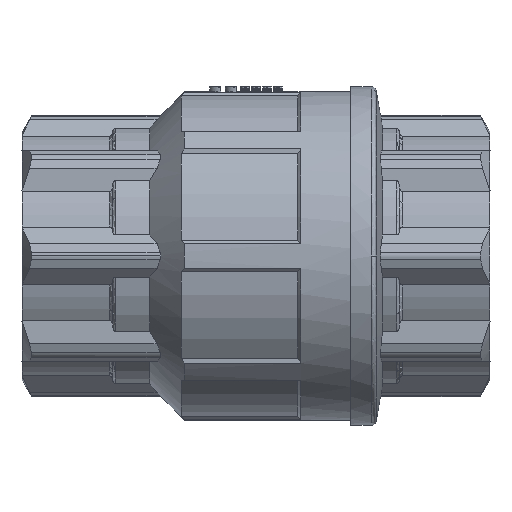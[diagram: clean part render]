
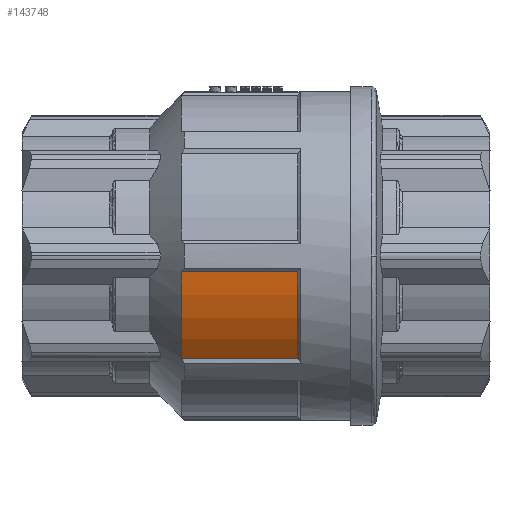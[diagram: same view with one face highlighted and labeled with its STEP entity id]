
A CAD part, front view. The second image highlights one B-rep face of the part: STEP entity #143748.
In plain terms, the highlighted cylindrical face has radius 64.75 mm (diameter 129.5 mm), a partial arc.
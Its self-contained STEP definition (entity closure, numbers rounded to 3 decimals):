
#1939 = DIRECTION ( 'NONE',  ( 1., 0., 0. ) ) ;
#2343 = VERTEX_POINT ( 'NONE', #107411 ) ;
#14070 = CARTESIAN_POINT ( 'NONE',  ( -30., -64.435, -6.375 ) ) ;
#15340 = EDGE_CURVE ( 'NONE', #19521, #2343, #58187, .T. ) ;
#19521 = VERTEX_POINT ( 'NONE', #90281 ) ;
#23017 = EDGE_CURVE ( 'NONE', #51945, #2343, #29412, .T. ) ;
#23137 = ORIENTED_EDGE ( 'NONE', *, *, #25411, .F. ) ;
#23139 = VECTOR ( 'NONE', #138163, 1000. ) ;
#25411 = EDGE_CURVE ( 'NONE', #51945, #114495, #145393, .T. ) ;
#29412 = CIRCLE ( 'NONE', #34609, 64.75 ) ;
#34296 = AXIS2_PLACEMENT_3D ( 'NONE', #141512, #118408, #38544 ) ;
#34609 = AXIS2_PLACEMENT_3D ( 'NONE', #70722, #1939, #82248 ) ;
#38544 = DIRECTION ( 'NONE',  ( 0., 1., 0. ) ) ;
#42855 = ORIENTED_EDGE ( 'NONE', *, *, #15340, .F. ) ;
#43335 = EDGE_CURVE ( 'NONE', #19521, #114495, #51959, .T. ) ;
#46001 = CARTESIAN_POINT ( 'NONE',  ( 16.75, -64.435, -6.375 ) ) ;
#51945 = VERTEX_POINT ( 'NONE', #14070 ) ;
#51959 = CIRCLE ( 'NONE', #117410, 64.75 ) ;
#52185 = EDGE_LOOP ( 'NONE', ( #62651, #23137, #143728, #42855 ) ) ;
#57758 = CARTESIAN_POINT ( 'NONE',  ( -6., -64.435, -6.375 ) ) ;
#58187 = LINE ( 'NONE', #91969, #146360 ) ;
#62234 = DIRECTION ( 'NONE',  ( -1., 0., 0. ) ) ;
#62651 = ORIENTED_EDGE ( 'NONE', *, *, #43335, .T. ) ;
#68378 = CYLINDRICAL_SURFACE ( 'NONE', #34296, 64.75 ) ;
#70722 = CARTESIAN_POINT ( 'NONE',  ( -30., 0., 0. ) ) ;
#82248 = DIRECTION ( 'NONE',  ( 0., 0., -1. ) ) ;
#90281 = CARTESIAN_POINT ( 'NONE',  ( 16.75, -50.07, -41.055 ) ) ;
#91969 = CARTESIAN_POINT ( 'NONE',  ( -6., -50.07, -41.055 ) ) ;
#107411 = CARTESIAN_POINT ( 'NONE',  ( -30., -50.07, -41.055 ) ) ;
#114495 = VERTEX_POINT ( 'NONE', #46001 ) ;
#117410 = AXIS2_PLACEMENT_3D ( 'NONE', #131075, #62234, #142648 ) ;
#118408 = DIRECTION ( 'NONE',  ( 1., 0., 0. ) ) ;
#126603 = DIRECTION ( 'NONE',  ( -1., 0., 0. ) ) ;
#131075 = CARTESIAN_POINT ( 'NONE',  ( 16.75, 0., 0. ) ) ;
#138163 = DIRECTION ( 'NONE',  ( 1., 0., 0. ) ) ;
#140294 = FACE_OUTER_BOUND ( 'NONE', #52185, .T. ) ;
#141512 = CARTESIAN_POINT ( 'NONE',  ( -30., 0., 0. ) ) ;
#142648 = DIRECTION ( 'NONE',  ( 0., 0., -1. ) ) ;
#143728 = ORIENTED_EDGE ( 'NONE', *, *, #23017, .T. ) ;
#143748 = ADVANCED_FACE ( 'NONE', ( #140294 ), #68378, .T. ) ;
#145393 = LINE ( 'NONE', #57758, #23139 ) ;
#146360 = VECTOR ( 'NONE', #126603, 1000. ) ;
